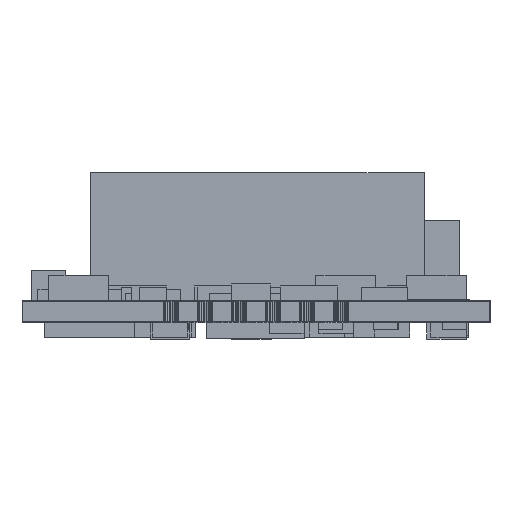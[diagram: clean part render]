
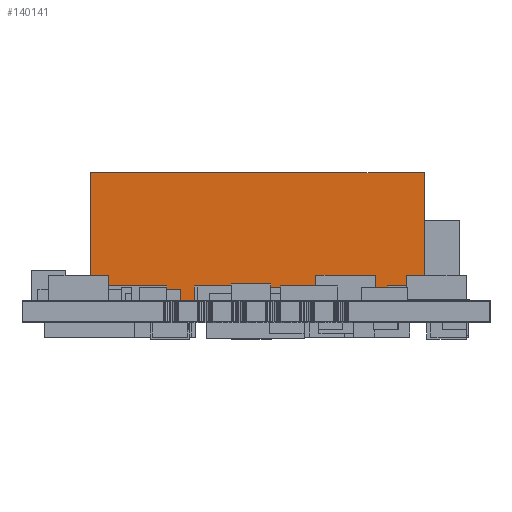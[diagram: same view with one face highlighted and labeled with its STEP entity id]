
A CAD part, left-side view. The second image highlights one B-rep face of the part: STEP entity #140141.
In plain terms, the highlighted face is a extrusion surface.
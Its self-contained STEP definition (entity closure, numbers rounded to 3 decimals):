
#83565 = VERTEX_POINT('',#83566);
#83566 = CARTESIAN_POINT('',(24.714,6.045,9.601));
#83572 = EDGE_CURVE('',#83565,#83573,#83575,.T.);
#83573 = VERTEX_POINT('',#83574);
#83574 = CARTESIAN_POINT('',(24.714,-18.948,9.601));
#83575 = LINE('',#83576,#83577);
#83576 = CARTESIAN_POINT('',(24.714,6.045,9.601));
#83577 = VECTOR('',#83578,1.);
#83578 = DIRECTION('',(0.,-1.,0.));
#83597 = EDGE_CURVE('',#83573,#83598,#83600,.T.);
#83598 = VERTEX_POINT('',#83599);
#83599 = CARTESIAN_POINT('',(24.714,-18.948,0.013));
#83600 = LINE('',#83601,#83602);
#83601 = CARTESIAN_POINT('',(24.714,-18.948,9.601));
#83602 = VECTOR('',#83603,1.);
#83603 = DIRECTION('',(0.,0.,-1.));
#95712 = VERTEX_POINT('',#95713);
#95713 = CARTESIAN_POINT('',(24.714,6.045,0.013));
#109028 = EDGE_CURVE('',#109029,#109031,#109033,.T.);
#109029 = VERTEX_POINT('',#109030);
#109030 = CARTESIAN_POINT('',(24.714,6.045,0.));
#109031 = VERTEX_POINT('',#109032);
#109032 = CARTESIAN_POINT('',(24.714,-18.948,0.));
#109033 = LINE('',#109034,#109035);
#109034 = CARTESIAN_POINT('',(24.714,6.045,0.));
#109035 = VECTOR('',#109036,1.);
#109036 = DIRECTION('',(0.,-1.,0.));
#112772 = EDGE_CURVE('',#109031,#83598,#112773,.T.);
#112773 = LINE('',#112774,#112775);
#112774 = CARTESIAN_POINT('',(24.714,-18.948,0.));
#112775 = VECTOR('',#112776,1.);
#112776 = DIRECTION('',(0.,0.,1.));
#112844 = EDGE_CURVE('',#95712,#109029,#112845,.T.);
#112845 = LINE('',#112846,#112847);
#112846 = CARTESIAN_POINT('',(24.714,6.045,9.601));
#112847 = VECTOR('',#112848,1.);
#112848 = DIRECTION('',(0.,0.,-1.));
#140141 = ADVANCED_FACE('',(#140142),#140155,.T.);
#140142 = FACE_BOUND('',#140143,.T.);
#140143 = EDGE_LOOP('',(#140144,#140145,#140151,#140152,#140153,#140154)
  );
#140144 = ORIENTED_EDGE('',*,*,#83572,.F.);
#140145 = ORIENTED_EDGE('',*,*,#140146,.T.);
#140146 = EDGE_CURVE('',#83565,#95712,#140147,.T.);
#140147 = LINE('',#140148,#140149);
#140148 = CARTESIAN_POINT('',(24.714,6.045,9.601));
#140149 = VECTOR('',#140150,1.);
#140150 = DIRECTION('',(0.,0.,-1.));
#140151 = ORIENTED_EDGE('',*,*,#112844,.T.);
#140152 = ORIENTED_EDGE('',*,*,#109028,.T.);
#140153 = ORIENTED_EDGE('',*,*,#112772,.T.);
#140154 = ORIENTED_EDGE('',*,*,#83597,.F.);
#140155 = SURFACE_OF_LINEAR_EXTRUSION('',#140156,#140160);
#140156 = LINE('',#140157,#140158);
#140157 = CARTESIAN_POINT('',(24.714,-18.948,0.));
#140158 = VECTOR('',#140159,1.);
#140159 = DIRECTION('',(0.,0.,1.));
#140160 = VECTOR('',#140161,1.);
#140161 = DIRECTION('',(0.,1.,0.));
